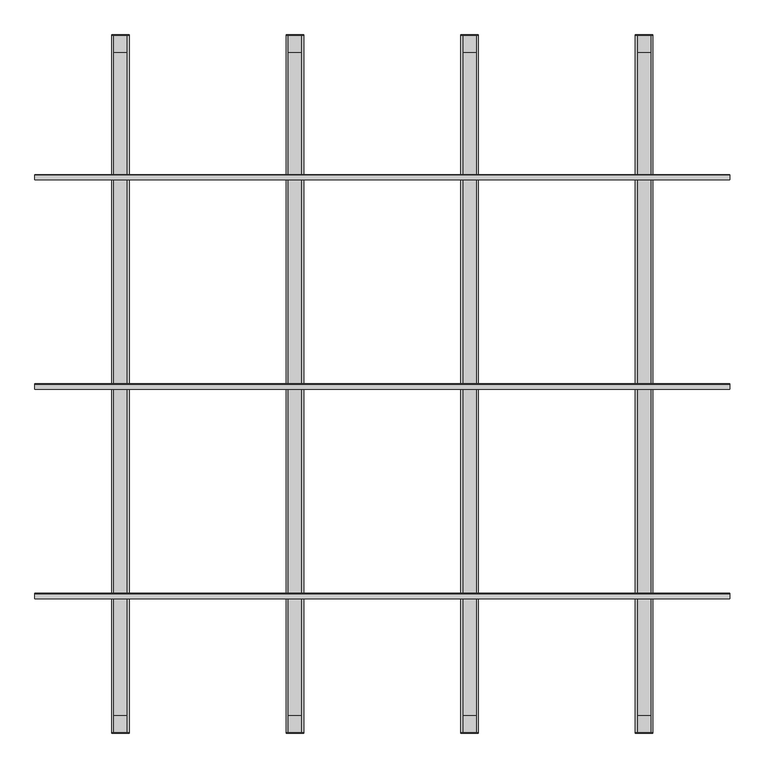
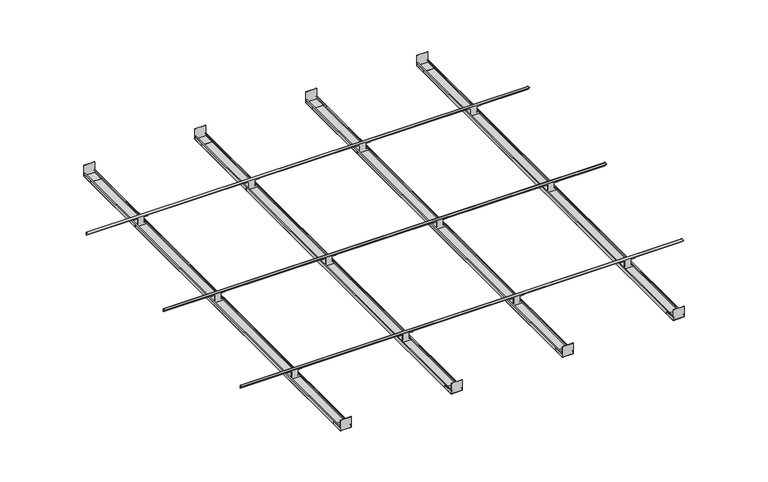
"""IFC4 building model written with IfcOpenShell, lengths in millimetres: proxy geometry, durlum_S5.7KS-BR_RHOMBOS : durlum_S5.7KS-BR_RHOMBOS."""

from ifc_helpers import new_model, si_unit, point, frame, frame_2d, origin, place, context, project, spatial, polyline, circle_curve, trimmed, segment, composite_curve, outline, extrude, source, transform, mapped, element, save


def generic_models_6c3d11f3(model_context):
    return source(origin(), model_context, "Body", "SweptSolid", [
        extrude(outline(polyline([(548.7946553, 1900.0), (548.7946553, 1998.75), (550.0446553, 1998.75), (550.0446553, 1900.0), (548.7946553, 1900.0)])), frame((0.0, 0.0, 3801.4968409), z_axis=(0.0, 0.0, 1.0), x_axis=(1.0, 0.0, 0.0)), (0.0, 0.0, 1.0), 22.9482224),
        extrude(outline(polyline([(451.2053447, 1900.0), (449.9553447, 1900.0), (449.9553447, 1998.75), (451.2053447, 1998.75), (451.2053447, 1900.0)])), frame((0.0, 0.0, 3801.4968409), z_axis=(0.0, 0.0, 1.0), x_axis=(1.0, 0.0, 0.0)), (0.0, 0.0, 1.0), 22.9482224),
        extrude(outline(polyline([(2000.0, 3801.4968409), (1900.0, 3801.4968409), (1900.0, 3802.7468409), (1998.75, 3802.7468409), (1998.75, 3901.4968409), (2000.0, 3901.4968409), (2000.0, 3801.4968409)])), frame((451.2053447, 0.0, 0.0), z_axis=(1.0, 0.0, 0.0), x_axis=(0.0, 1.0, 0.0)), (0.0, 0.0, 1.0), 97.5893106),
        extrude(outline(polyline([(-451.2053447, 1900.0), (-451.2053447, 1998.75), (-449.9553447, 1998.75), (-449.9553447, 1900.0), (-451.2053447, 1900.0)])), frame((0.0, 0.0, 3801.4984205), z_axis=(0.0, 0.0, 1.0), x_axis=(1.0, 0.0, 0.0)), (0.0, 0.0, 1.0), 22.9482224),
        extrude(outline(polyline([(-548.7946553, 1900.0), (-550.0446553, 1900.0), (-550.0446553, 1998.75), (-548.7946553, 1998.75), (-548.7946553, 1900.0)])), frame((0.0, 0.0, 3801.4984205), z_axis=(0.0, 0.0, 1.0), x_axis=(1.0, 0.0, 0.0)), (0.0, 0.0, 1.0), 22.9482224),
        extrude(outline(polyline([(2000.0, 3801.4984205), (1900.0, 3801.4984205), (1900.0, 3802.7484205), (1998.75, 3802.7484205), (1998.75, 3901.4984205), (2000.0, 3901.4984205), (2000.0, 3801.4984205)])), frame((-548.7946553, 0.0, 0.0), z_axis=(1.0, 0.0, 0.0), x_axis=(0.0, 1.0, 0.0)), (0.0, 0.0, 1.0), 97.5893106),
        extrude(outline(polyline([(451.2053447, -1900.0), (451.2053447, -1998.75), (449.9553447, -1998.75), (449.9553447, -1900.0), (451.2053447, -1900.0)])), frame((0.0, 0.0, 3801.4975378), z_axis=(0.0, 0.0, 1.0), x_axis=(1.0, 0.0, 0.0)), (0.0, 0.0, 1.0), 22.9482224),
        extrude(outline(polyline([(548.7946553, -1900.0), (550.0446553, -1900.0), (550.0446553, -1998.75), (548.7946553, -1998.75), (548.7946553, -1900.0)])), frame((0.0, 0.0, 3801.4975378), z_axis=(0.0, 0.0, 1.0), x_axis=(1.0, 0.0, 0.0)), (0.0, 0.0, 1.0), 22.9482224),
        extrude(outline(polyline([(-2000.0, 3801.4975378), (-2000.0, 3901.4975378), (-1998.75, 3901.4975378), (-1998.75, 3802.7475378), (-1900.0, 3802.7475378), (-1900.0, 3801.4975378), (-2000.0, 3801.4975378)])), frame((451.2053447, 0.0, 0.0), z_axis=(1.0, 0.0, 0.0), x_axis=(0.0, 1.0, 0.0)), (0.0, 0.0, 1.0), 97.5893106),
        extrude(outline(polyline([(-548.7946553, -1900.0), (-548.7946553, -1998.75), (-550.0446553, -1998.75), (-550.0446553, -1900.0), (-548.7946553, -1900.0)])), frame((0.0, 0.0, 3801.4987689), z_axis=(0.0, 0.0, 1.0), x_axis=(1.0, 0.0, 0.0)), (0.0, 0.0, 1.0), 22.9482224),
        extrude(outline(polyline([(-451.2053447, -1900.0), (-449.9553447, -1900.0), (-449.9553447, -1998.75), (-451.2053447, -1998.75), (-451.2053447, -1900.0)])), frame((0.0, 0.0, 3801.4987689), z_axis=(0.0, 0.0, 1.0), x_axis=(1.0, 0.0, 0.0)), (0.0, 0.0, 1.0), 22.9482224),
        extrude(outline(polyline([(-2000.0, 3801.4987689), (-2000.0, 3901.4987689), (-1998.75, 3901.4987689), (-1998.75, 3802.7487689), (-1900.0, 3802.7487689), (-1900.0, 3801.4987689), (-2000.0, 3801.4987689)])), frame((-548.7946553, 0.0, 0.0), z_axis=(1.0, 0.0, 0.0), x_axis=(0.0, 1.0, 0.0)), (0.0, 0.0, 1.0), 97.5893106),
        extrude(outline(polyline([(1451.2053447, -1900.0), (1451.2053447, -1998.75), (1449.9553447, -1998.75), (1449.9553447, -1900.0), (1451.2053447, -1900.0)])), frame((0.0, 0.0, 3801.4963067), z_axis=(0.0, 0.0, 1.0), x_axis=(1.0, 0.0, 0.0)), (0.0, 0.0, 1.0), 22.9482224),
        extrude(outline(polyline([(1548.7946553, -1900.0), (1550.0446553, -1900.0), (1550.0446553, -1998.75), (1548.7946553, -1998.75), (1548.7946553, -1900.0)])), frame((0.0, 0.0, 3801.4963067), z_axis=(0.0, 0.0, 1.0), x_axis=(1.0, 0.0, 0.0)), (0.0, 0.0, 1.0), 22.9482224),
        extrude(outline(polyline([(-2000.0, 3801.4963067), (-2000.0, 3901.4963067), (-1998.75, 3901.4963067), (-1998.75, 3802.7463067), (-1900.0, 3802.7463067), (-1900.0, 3801.4963067), (-2000.0, 3801.4963067)])), frame((1451.2053447, 0.0, 0.0), z_axis=(1.0, 0.0, 0.0), x_axis=(0.0, 1.0, 0.0)), (0.0, 0.0, 1.0), 97.5893106),
        extrude(outline(polyline([(1548.7946553, 1900.0), (1548.7946553, 1998.75), (1550.0446553, 1998.75), (1550.0446553, 1900.0), (1548.7946553, 1900.0)])), frame((0.0, 0.0, 3801.4952614), z_axis=(0.0, 0.0, 1.0), x_axis=(1.0, 0.0, 0.0)), (0.0, 0.0, 1.0), 22.9482224),
        extrude(outline(polyline([(1451.2053447, 1900.0), (1449.9553447, 1900.0), (1449.9553447, 1998.75), (1451.2053447, 1998.75), (1451.2053447, 1900.0)])), frame((0.0, 0.0, 3801.4952614), z_axis=(0.0, 0.0, 1.0), x_axis=(1.0, 0.0, 0.0)), (0.0, 0.0, 1.0), 22.9482224),
        extrude(outline(polyline([(2000.0, 3801.4952614), (1900.0, 3801.4952614), (1900.0, 3802.7452614), (1998.75, 3802.7452614), (1998.75, 3901.4952614), (2000.0, 3901.4952614), (2000.0, 3801.4952614)])), frame((1451.2053447, 0.0, 0.0), z_axis=(1.0, 0.0, 0.0), x_axis=(0.0, 1.0, 0.0)), (0.0, 0.0, 1.0), 97.5893106),
        extrude(outline(polyline([(-1548.7946553, -1900.0), (-1548.7946553, -1998.75), (-1550.0446553, -1998.75), (-1550.0446553, -1900.0), (-1548.7946553, -1900.0)])), frame((0.0, 0.0, 3801.5), z_axis=(0.0, 0.0, 1.0), x_axis=(1.0, 0.0, 0.0)), (0.0, 0.0, 1.0), 22.9482224),
        extrude(outline(polyline([(-1451.2053447, -1900.0), (-1449.9553447, -1900.0), (-1449.9553447, -1998.75), (-1451.2053447, -1998.75), (-1451.2053447, -1900.0)])), frame((0.0, 0.0, 3801.5), z_axis=(0.0, 0.0, 1.0), x_axis=(1.0, 0.0, 0.0)), (0.0, 0.0, 1.0), 22.9482224),
        extrude(outline(polyline([(-2000.0, 3801.5), (-2000.0, 3901.5), (-1998.75, 3901.5), (-1998.75, 3802.75), (-1900.0, 3802.75), (-1900.0, 3801.5), (-2000.0, 3801.5)])), frame((-1548.7946553, 0.0, 0.0), z_axis=(1.0, 0.0, 0.0), x_axis=(0.0, 1.0, 0.0)), (0.0, 0.0, 1.0), 97.5893106),
        extrude(outline(polyline([(-1451.2053447, 1900.0), (-1451.2053447, 1998.75), (-1449.9553447, 1998.75), (-1449.9553447, 1900.0), (-1451.2053447, 1900.0)])), frame((0.0, 0.0, 3801.5), z_axis=(0.0, 0.0, 1.0), x_axis=(1.0, 0.0, 0.0)), (0.0, 0.0, 1.0), 22.9482224),
        extrude(outline(polyline([(-1548.7946553, 1900.0), (-1550.0446553, 1900.0), (-1550.0446553, 1998.75), (-1548.7946553, 1998.75), (-1548.7946553, 1900.0)])), frame((0.0, 0.0, 3801.5), z_axis=(0.0, 0.0, 1.0), x_axis=(1.0, 0.0, 0.0)), (0.0, 0.0, 1.0), 22.9482224),
        extrude(outline(polyline([(2000.0, 3801.5), (1900.0, 3801.5), (1900.0, 3802.75), (1998.75, 3802.75), (1998.75, 3901.5), (2000.0, 3901.5), (2000.0, 3801.5)])), frame((-1548.7946553, 0.0, 0.0), z_axis=(1.0, 0.0, 0.0), x_axis=(0.0, 1.0, 0.0)), (0.0, 0.0, 1.0), 97.5893106),
        extrude(outline(polyline([(3825.0, -451.7190114), (3825.0, -453.1717956), (3820.9590465, -453.1717956), (3820.9590465, -471.9750683), (3872.9865783, -471.9750683), (3872.9865783, -437.653609), (3900.0, -437.653609), (3900.0, -562.346391), (3872.9865783, -562.346391), (3872.9865783, -528.0249317), (3820.9590465, -528.0249317), (3820.9590465, -546.8282044), (3825.0, -546.8282044), (3825.0, -548.2809886), (3800.0, -548.2809886), (3800.0, -451.7190114), (3825.0, -451.7190114)])), frame((0.0, -3.9953756, 0.0), z_axis=(0.0, 1.0, 0.0), x_axis=(0.0, 0.0, 1.0)), (0.0, 0.0, 1.0), 1.9953756),
        extrude(outline(polyline([(3825.0, 548.2809886), (3825.0, 546.8282044), (3820.9590465, 546.8282044), (3820.9590465, 528.0249317), (3872.9865783, 528.0249317), (3872.9865783, 562.346391), (3900.0, 562.346391), (3900.0, 437.653609), (3872.9865783, 437.653609), (3872.9865783, 471.9750683), (3820.9590465, 471.9750683), (3820.9590465, 453.1717956), (3825.0, 453.1717956), (3825.0, 451.7190114), (3800.0, 451.7190114), (3800.0, 548.2809886), (3825.0, 548.2809886)])), frame((0.0, -3.9953756, 0.0), z_axis=(0.0, 1.0, 0.0), x_axis=(0.0, 0.0, 1.0)), (0.0, 0.0, 1.0), 1.9953756),
        extrude(outline(polyline([(3825.0, -1451.7190114), (3825.0, -1453.1717956), (3820.9590465, -1453.1717956), (3820.9590465, -1471.9750683), (3872.9865783, -1471.9750683), (3872.9865783, -1437.653609), (3900.0, -1437.653609), (3900.0, -1562.346391), (3872.9865783, -1562.346391), (3872.9865783, -1528.0249317), (3820.9590465, -1528.0249317), (3820.9590465, -1546.8282044), (3825.0, -1546.8282044), (3825.0, -1548.2809886), (3800.0, -1548.2809886), (3800.0, -1451.7190114), (3825.0, -1451.7190114)])), frame((0.0, -3.9953756, 0.0), z_axis=(0.0, 1.0, 0.0), x_axis=(0.0, 0.0, 1.0)), (0.0, 0.0, 1.0), 1.9953756),
        extrude(outline(polyline([(3825.0, 1548.2809886), (3825.0, 1546.8282044), (3820.9590465, 1546.8282044), (3820.9590465, 1528.0249317), (3872.9865783, 1528.0249317), (3872.9865783, 1562.346391), (3900.0, 1562.346391), (3900.0, 1437.653609), (3872.9865783, 1437.653609), (3872.9865783, 1471.9750683), (3820.9590465, 1471.9750683), (3820.9590465, 1453.1717956), (3825.0, 1453.1717956), (3825.0, 1451.7190114), (3800.0, 1451.7190114), (3800.0, 1548.2809886), (3825.0, 1548.2809886)])), frame((0.0, -3.9953756, 0.0), z_axis=(0.0, 1.0, 0.0), x_axis=(0.0, 0.0, 1.0)), (0.0, 0.0, 1.0), 1.9953756),
        extrude(outline(composite_curve([segment(polyline([(-2.0, 3876.1), (-2.0, 3902.0)]), True, "CONTINUOUS"), segment(trimmed(circle_curve(frame_2d((-4.0, 3902.0)), 2.0), [point((-2.0, 3902.0))], [point((-4.0, 3904.0))], True, "CARTESIAN"), True, "CONTINUOUS"), segment(polyline([(-4.0, 3904.0), (-29.9, 3904.0), (-29.9, 3906.0), (-4.0, 3906.0)]), True, "CONTINUOUS"), segment(trimmed(circle_curve(frame_2d((-4.0, 3902.0)), 4.0), [point((-4.0, 3906.0))], [point((0.0, 3902.0))], False, "CARTESIAN"), True, "CONTINUOUS"), segment(polyline([(0.0, 3902.0), (0.0, 3876.1), (-2.0, 3876.1)]), True, "CONTINUOUS")], self_intersect=False)), frame((-1990.0, 0.0, 0.0), z_axis=(1.0, 0.0, 0.0), x_axis=(0.0, 1.0, 0.0)), (0.0, 0.0, 1.0), 3980.0),
        extrude(outline(polyline([(3825.0, -451.7190114), (3825.0, -453.1717956), (3820.9590465, -453.1717956), (3820.9590465, -471.9750683), (3872.9865783, -471.9750683), (3872.9865783, -437.653609), (3900.0, -437.653609), (3900.0, -562.346391), (3872.9865783, -562.346391), (3872.9865783, -528.0249317), (3820.9590465, -528.0249317), (3820.9590465, -546.8282044), (3825.0, -546.8282044), (3825.0, -548.2809886), (3800.0, -548.2809886), (3800.0, -451.7190114), (3825.0, -451.7190114)])), frame((0.0, -1203.9953756, 0.0), z_axis=(0.0, 1.0, 0.0), x_axis=(0.0, 0.0, 1.0)), (0.0, 0.0, 1.0), 1.9953756),
        extrude(outline(polyline([(3825.0, 548.2809886), (3825.0, 546.8282044), (3820.9590465, 546.8282044), (3820.9590465, 528.0249317), (3872.9865783, 528.0249317), (3872.9865783, 562.346391), (3900.0, 562.346391), (3900.0, 437.653609), (3872.9865783, 437.653609), (3872.9865783, 471.9750683), (3820.9590465, 471.9750683), (3820.9590465, 453.1717956), (3825.0, 453.1717956), (3825.0, 451.7190114), (3800.0, 451.7190114), (3800.0, 548.2809886), (3825.0, 548.2809886)])), frame((0.0, -1203.9953756, 0.0), z_axis=(0.0, 1.0, 0.0), x_axis=(0.0, 0.0, 1.0)), (0.0, 0.0, 1.0), 1.9953756),
        extrude(outline(polyline([(3825.0, -1451.7190114), (3825.0, -1453.1717956), (3820.9590465, -1453.1717956), (3820.9590465, -1471.9750683), (3872.9865783, -1471.9750683), (3872.9865783, -1437.653609), (3900.0, -1437.653609), (3900.0, -1562.346391), (3872.9865783, -1562.346391), (3872.9865783, -1528.0249317), (3820.9590465, -1528.0249317), (3820.9590465, -1546.8282044), (3825.0, -1546.8282044), (3825.0, -1548.2809886), (3800.0, -1548.2809886), (3800.0, -1451.7190114), (3825.0, -1451.7190114)])), frame((0.0, -1203.9953756, 0.0), z_axis=(0.0, 1.0, 0.0), x_axis=(0.0, 0.0, 1.0)), (0.0, 0.0, 1.0), 1.9953756),
        extrude(outline(polyline([(3825.0, 1548.2809886), (3825.0, 1546.8282044), (3820.9590465, 1546.8282044), (3820.9590465, 1528.0249317), (3872.9865783, 1528.0249317), (3872.9865783, 1562.346391), (3900.0, 1562.346391), (3900.0, 1437.653609), (3872.9865783, 1437.653609), (3872.9865783, 1471.9750683), (3820.9590465, 1471.9750683), (3820.9590465, 1453.1717956), (3825.0, 1453.1717956), (3825.0, 1451.7190114), (3800.0, 1451.7190114), (3800.0, 1548.2809886), (3825.0, 1548.2809886)])), frame((0.0, -1203.9953756, 0.0), z_axis=(0.0, 1.0, 0.0), x_axis=(0.0, 0.0, 1.0)), (0.0, 0.0, 1.0), 1.9953756),
        extrude(outline(composite_curve([segment(polyline([(-1202.0, 3876.1), (-1202.0, 3902.0)]), True, "CONTINUOUS"), segment(trimmed(circle_curve(frame_2d((-1204.0, 3902.0)), 2.0), [point((-1202.0, 3902.0))], [point((-1204.0, 3904.0))], True, "CARTESIAN"), True, "CONTINUOUS"), segment(polyline([(-1204.0, 3904.0), (-1229.9, 3904.0), (-1229.9, 3906.0), (-1204.0, 3906.0)]), True, "CONTINUOUS"), segment(trimmed(circle_curve(frame_2d((-1204.0, 3902.0)), 4.0), [point((-1204.0, 3906.0))], [point((-1200.0, 3902.0))], False, "CARTESIAN"), True, "CONTINUOUS"), segment(polyline([(-1200.0, 3902.0), (-1200.0, 3876.1), (-1202.0, 3876.1)]), True, "CONTINUOUS")], self_intersect=False)), frame((-1990.0, 0.0, 0.0), z_axis=(1.0, 0.0, 0.0), x_axis=(0.0, 1.0, 0.0)), (0.0, 0.0, 1.0), 3980.0),
        extrude(outline(polyline([(3830.0, -550.0), (3800.0, -550.0), (3800.0, -450.0), (3830.0, -450.0), (3830.0, -460.0), (3829.0, -460.0), (3829.0, -451.0), (3801.0, -451.0), (3801.0, -549.0), (3829.0, -549.0), (3829.0, -540.0), (3830.0, -540.0), (3830.0, -550.0)])), frame((0.0, -2000.0, 0.0), z_axis=(0.0, 1.0, 0.0), x_axis=(0.0, 0.0, 1.0)), (0.0, 0.0, 1.0), 4000.0),
        extrude(outline(polyline([(3830.0, 450.0), (3800.0, 450.0), (3800.0, 550.0), (3830.0, 550.0), (3830.0, 540.0), (3829.0, 540.0), (3829.0, 549.0), (3801.0, 549.0), (3801.0, 451.0), (3829.0, 451.0), (3829.0, 460.0), (3830.0, 460.0), (3830.0, 450.0)])), frame((0.0, -2000.0, 0.0), z_axis=(0.0, 1.0, 0.0), x_axis=(0.0, 0.0, 1.0)), (0.0, 0.0, 1.0), 4000.0),
        extrude(outline(polyline([(3830.0, -1550.0), (3800.0, -1550.0), (3800.0, -1450.0), (3830.0, -1450.0), (3830.0, -1460.0), (3829.0, -1460.0), (3829.0, -1451.0), (3801.0, -1451.0), (3801.0, -1549.0), (3829.0, -1549.0), (3829.0, -1540.0), (3830.0, -1540.0), (3830.0, -1550.0)])), frame((0.0, -2000.0, 0.0), z_axis=(0.0, 1.0, 0.0), x_axis=(0.0, 0.0, 1.0)), (0.0, 0.0, 1.0), 4000.0),
        extrude(outline(polyline([(3830.0, 1450.0), (3800.0, 1450.0), (3800.0, 1550.0), (3830.0, 1550.0), (3830.0, 1540.0), (3829.0, 1540.0), (3829.0, 1549.0), (3801.0, 1549.0), (3801.0, 1451.0), (3829.0, 1451.0), (3829.0, 1460.0), (3830.0, 1460.0), (3830.0, 1450.0)])), frame((0.0, -2000.0, 0.0), z_axis=(0.0, 1.0, 0.0), x_axis=(0.0, 0.0, 1.0)), (0.0, 0.0, 1.0), 4000.0),
        extrude(outline(polyline([(3825.0, -451.7190114), (3825.0, -453.1717956), (3820.9590465, -453.1717956), (3820.9590465, -471.9750683), (3872.9865783, -471.9750683), (3872.9865783, -437.653609), (3900.0, -437.653609), (3900.0, -562.346391), (3872.9865783, -562.346391), (3872.9865783, -528.0249317), (3820.9590465, -528.0249317), (3820.9590465, -546.8282044), (3825.0, -546.8282044), (3825.0, -548.2809886), (3800.0, -548.2809886), (3800.0, -451.7190114), (3825.0, -451.7190114)])), frame((0.0, 1196.0046244, 0.0), z_axis=(0.0, 1.0, 0.0), x_axis=(0.0, 0.0, 1.0)), (0.0, 0.0, 1.0), 1.9953756),
        extrude(outline(polyline([(3825.0, 548.2809886), (3825.0, 546.8282044), (3820.9590465, 546.8282044), (3820.9590465, 528.0249317), (3872.9865783, 528.0249317), (3872.9865783, 562.346391), (3900.0, 562.346391), (3900.0, 437.653609), (3872.9865783, 437.653609), (3872.9865783, 471.9750683), (3820.9590465, 471.9750683), (3820.9590465, 453.1717956), (3825.0, 453.1717956), (3825.0, 451.7190114), (3800.0, 451.7190114), (3800.0, 548.2809886), (3825.0, 548.2809886)])), frame((0.0, 1196.0046244, 0.0), z_axis=(0.0, 1.0, 0.0), x_axis=(0.0, 0.0, 1.0)), (0.0, 0.0, 1.0), 1.9953756),
        extrude(outline(polyline([(3825.0, -1451.7190114), (3825.0, -1453.1717956), (3820.9590465, -1453.1717956), (3820.9590465, -1471.9750683), (3872.9865783, -1471.9750683), (3872.9865783, -1437.653609), (3900.0, -1437.653609), (3900.0, -1562.346391), (3872.9865783, -1562.346391), (3872.9865783, -1528.0249317), (3820.9590465, -1528.0249317), (3820.9590465, -1546.8282044), (3825.0, -1546.8282044), (3825.0, -1548.2809886), (3800.0, -1548.2809886), (3800.0, -1451.7190114), (3825.0, -1451.7190114)])), frame((0.0, 1196.0046244, 0.0), z_axis=(0.0, 1.0, 0.0), x_axis=(0.0, 0.0, 1.0)), (0.0, 0.0, 1.0), 1.9953756),
        extrude(outline(polyline([(3825.0, 1548.2809886), (3825.0, 1546.8282044), (3820.9590465, 1546.8282044), (3820.9590465, 1528.0249317), (3872.9865783, 1528.0249317), (3872.9865783, 1562.346391), (3900.0, 1562.346391), (3900.0, 1437.653609), (3872.9865783, 1437.653609), (3872.9865783, 1471.9750683), (3820.9590465, 1471.9750683), (3820.9590465, 1453.1717956), (3825.0, 1453.1717956), (3825.0, 1451.7190114), (3800.0, 1451.7190114), (3800.0, 1548.2809886), (3825.0, 1548.2809886)])), frame((0.0, 1196.0046244, 0.0), z_axis=(0.0, 1.0, 0.0), x_axis=(0.0, 0.0, 1.0)), (0.0, 0.0, 1.0), 1.9953756),
        extrude(outline(composite_curve([segment(polyline([(1198.0, 3876.1), (1198.0, 3902.0)]), True, "CONTINUOUS"), segment(trimmed(circle_curve(frame_2d((1196.0, 3902.0)), 2.0), [point((1198.0, 3902.0))], [point((1196.0, 3904.0))], True, "CARTESIAN"), True, "CONTINUOUS"), segment(polyline([(1196.0, 3904.0), (1170.1, 3904.0), (1170.1, 3906.0), (1196.0, 3906.0)]), True, "CONTINUOUS"), segment(trimmed(circle_curve(frame_2d((1196.0, 3902.0)), 4.0), [point((1196.0, 3906.0))], [point((1200.0, 3902.0))], False, "CARTESIAN"), True, "CONTINUOUS"), segment(polyline([(1200.0, 3902.0), (1200.0, 3876.1), (1198.0, 3876.1)]), True, "CONTINUOUS")], self_intersect=False)), frame((-1990.0, 0.0, 0.0), z_axis=(1.0, 0.0, 0.0), x_axis=(0.0, 1.0, 0.0)), (0.0, 0.0, 1.0), 3980.0),
    ])


if __name__ == "__main__":
    model = new_model("IFC4")
    model_context = context("Model", 3, world=origin())
    ifc_project = project(units=[si_unit("LENGTHUNIT", "METRE", prefix="MILLI")], contexts=[model_context])
    site = spatial("IfcSite", under=ifc_project)
    building = spatial("IfcBuilding", under=site)
    placement = place(None, origin())
    generic_models_shape = generic_models_6c3d11f3(model_context)
    element("IfcBuildingElementProxy", 1, Name="durlum_S5.7KS-BR_RHOMBOS : durlum_S5.7KS-BR_RHOMBOS", ObjectType="durlum_S5.7KS-BR_RHOMBOS : durlum_S5.7KS-BR_RHOMBOS", at=placement, inside=building, context=model_context, shape_type="MappedRepresentation", body=[
        mapped(generic_models_shape, transform((0.0, 0.0, 0.0), x_axis=(1.0, 0.0, 0.0), y_axis=(0.0, 1.0, 0.0), z_axis=(0.0, 0.0, 1.0))),
    ])
    save(model, "model.ifc")
